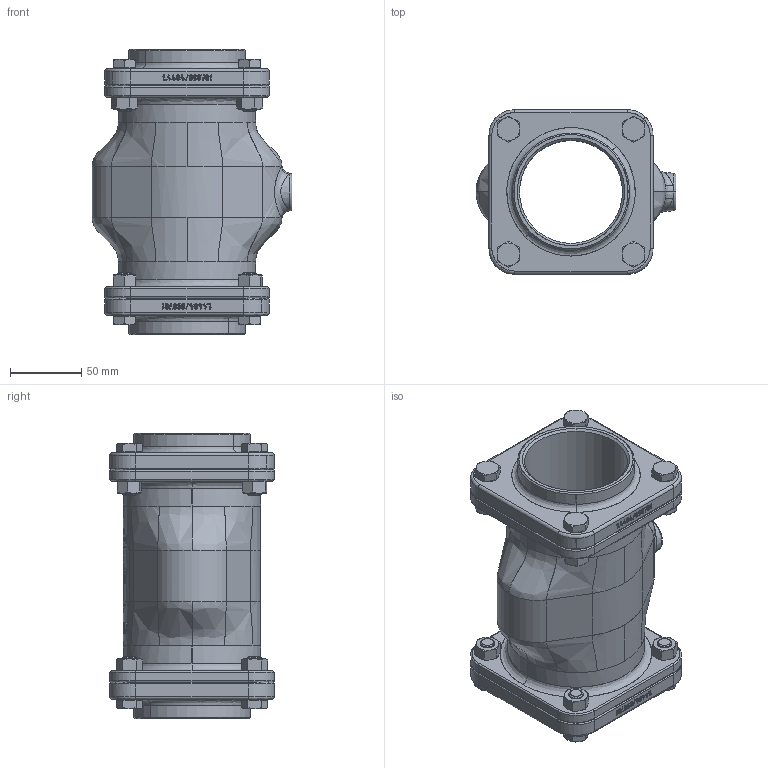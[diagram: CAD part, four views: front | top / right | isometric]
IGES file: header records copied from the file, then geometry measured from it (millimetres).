
Start section: SolidWorks IGES file using analytic representation for surfaces
Global section: file name: L:\SolidWorks_daten\Zeichnungen\AKO\Ventile\Fuer Extern\Traceparts\VMC\DN65\VMC65xx50G50_EV.IGS; native system: SolidWorks 2014; preprocessor: SolidWorks 2014; author: j.greif; date: 141124.081411; units: millimetre
Bounding box: 140 x 115 x 200 mm (x, y, z)
Surface area: 179237.9 mm2 (no closed solid volume)
Topology: 0 solids, 0 shells, 2435 faces, 31108 edges, 31108 vertices
Faces by surface type: bspline 2011, revolution 424
